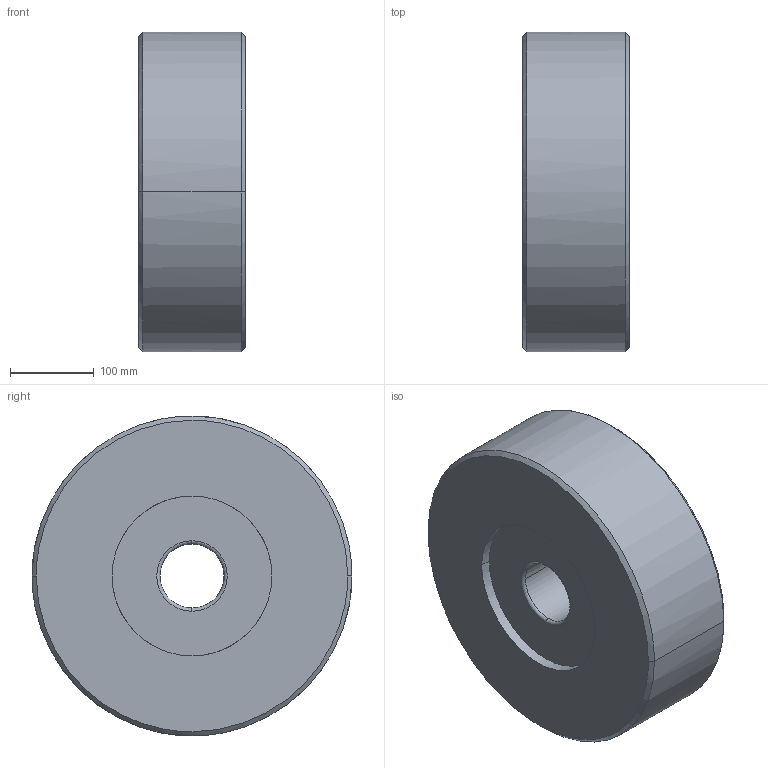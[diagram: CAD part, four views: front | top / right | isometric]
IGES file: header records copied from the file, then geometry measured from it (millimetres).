
Global section: native system: Kubotek KeyCreator; preprocessor: KCM Version 1.1.1442.0; author: KeyCreator User; organization: Self; date: 20170713.024907; units: inch
Bounding box: 127 x 381 x 381 mm (x, y, z)
Surface area: 402580.3 mm2 (no closed solid volume)
Topology: 0 solids, 0 shells, 20 faces, 128 edges, 128 vertices
Faces by surface type: bspline 20
